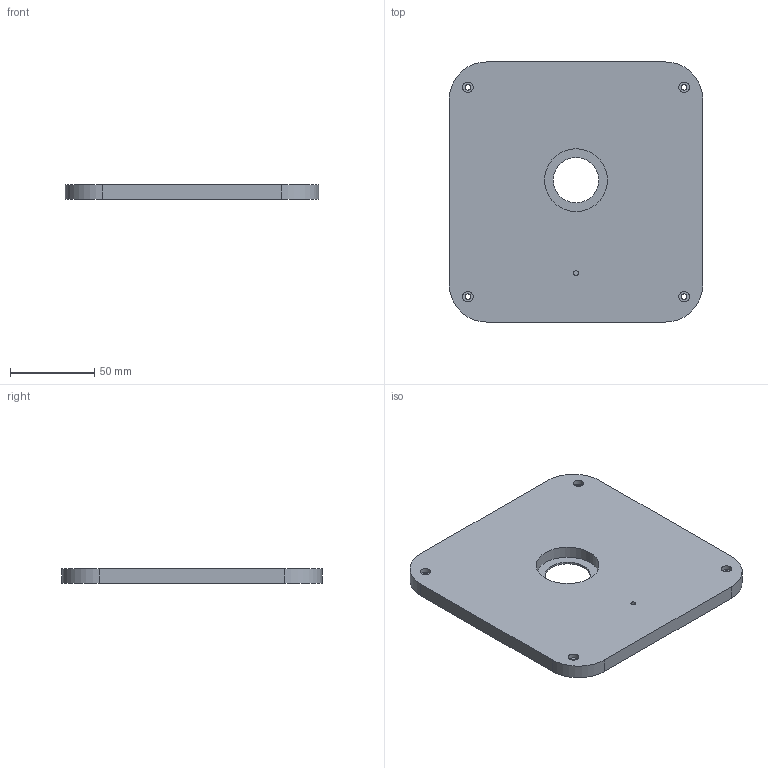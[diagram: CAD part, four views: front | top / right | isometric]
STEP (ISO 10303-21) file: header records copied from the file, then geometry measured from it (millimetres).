
FILE_DESCRIPTION(('Open CASCADE Model'),'2;1');
FILE_NAME('Open CASCADE Shape Model','2026-11-24T20:33:34',('Author'),( 'Open CASCADE'),'Open CASCADE STEP processor 7.8','Open CASCADE 7.8' ,'Unknown');
FILE_SCHEMA(('AUTOMOTIVE_DESIGN { 1 0 10303 214 1 1 1 1 }'));
Length unit declared in the file: millimetre
Products named in the file (1): Open CASCADE STEP translator 7.8 2
Bounding box: 150 x 154 x 8.4 mm (x, y, z)
Volume: 181482.2 mm3; surface area: 50399.8 mm2
Topology: 1 solids, 1 shells, 27 faces, 57 edges, 38 vertices
Faces by surface type: cylinder 15, plane 12
Full cylindrical faces by diameter (mm): 2.8 x1, 3.3 x4, 6.2 x4, 26.9 x1, 37.2 x1
Entity records: 1524 total; most frequent: CARTESIAN_POINT 261, DIRECTION 253, ORIENTED_EDGE 114, PCURVE 114, DEFINITIONAL_REPRESENTATION 114, LINE 111, VECTOR 111, AXIS2_PLACEMENT_3D 58
